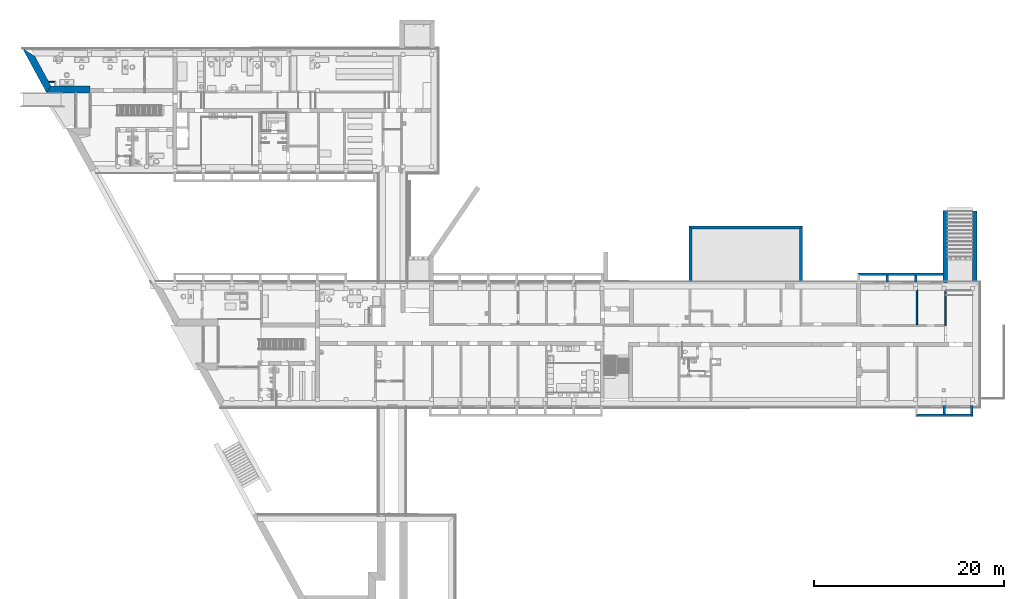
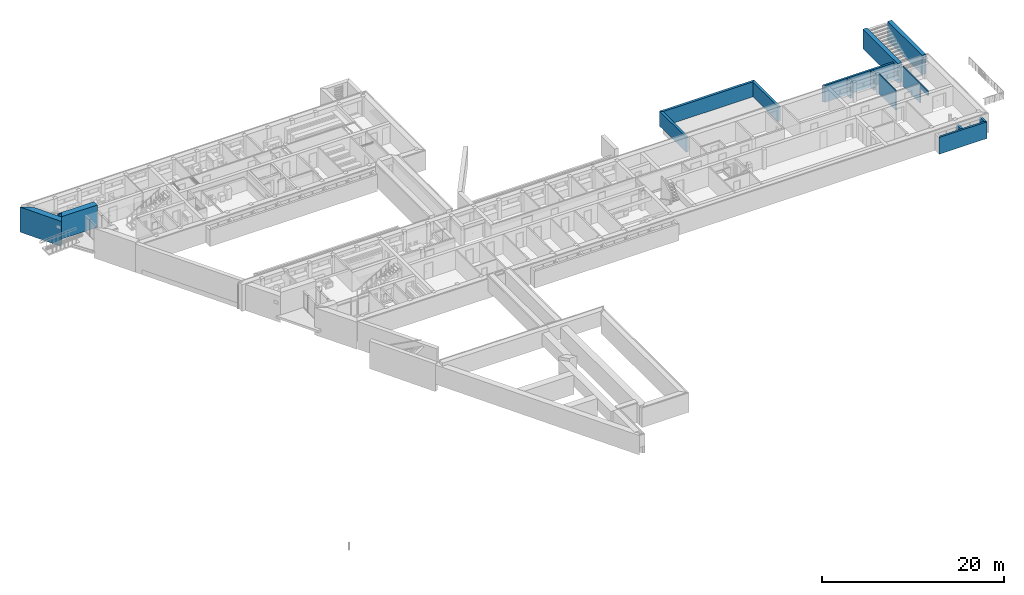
# One storey, part 21 of 127: 16 walls, 1 opening.
"""IFC2X3 building model written with IfcOpenShell, lengths in millimetres."""

import ifcopenshell
import ifcopenshell.guid

model = None  # the IFC model being written
_history = None  # IfcOwnerHistory: only IFC2X3 demands one
_inside = {}  # id of a spatial element -> (the spatial element, [elements in it])
_under = {}  # id of a project, library or spatial element -> (it, [spatial elements below it])
_declared = {}  # id of a project -> (the project, [libraries it declares])
_typed = {}  # id of a type object -> (the type object, [elements of that type])
_made_of = {}  # id of a material, layer set ... -> (it, [elements and type objects made of it])


def new_model(schema):
    """Start an empty IFC model of exactly this schema.

    Asked for "IFC4X3", IfcOpenShell would pick the latest addendum, in which some entities
    have other attributes; the version numbers below select the first issue.
    IFC2X3 requires an IfcOwnerHistory on every rooted entity: one is made here for all.
    """
    global model, _history
    if schema == "IFC4X3":
        model = ifcopenshell.file(schema_version=(4, 3, 0, 0))
    else:
        model = ifcopenshell.file(schema=schema)
    _inside.clear()
    _under.clear()
    _declared.clear()
    _typed.clear()
    _made_of.clear()
    _history = None
    if model.schema == "IFC2X3":
        org = make("IfcOrganization", Name="unknown")
        user = make(
            "IfcPersonAndOrganization",
            ThePerson=make("IfcPerson", FamilyName="unknown"),
            TheOrganization=org,
        )
        app = make(
            "IfcApplication",
            ApplicationDeveloper=org,
            Version="unknown",
            ApplicationFullName="unknown",
            ApplicationIdentifier="unknown",
        )
        _history = make(
            "IfcOwnerHistory",
            OwningUser=user,
            OwningApplication=app,
            ChangeAction="ADDED",
            CreationDate=0,
        )
    return model


def make(cls, **values):
    """One entity of the class cls with the attributes given. An attribute that is None is left unset."""
    return model.create_entity(
        cls, **{name: value for name, value in values.items() if value is not None}
    )


def entity(cls, *values):
    """Any entity or typed value of the class cls, its attributes in the order of the schema. None: left unset."""
    e = model.create_entity(cls)
    for i, value in enumerate(values):
        if value is not None:
            e[i] = value
    return e


def rooted(cls, **values):
    """An entity with a GlobalId (a new one), such as an element, a storey or a relation."""
    return make(cls, GlobalId=ifcopenshell.guid.new(), OwnerHistory=_history, **values)


def si_unit(unit_type, name, prefix=None):
    """IfcSIUnit, for example si_unit("LENGTHUNIT", "METRE", prefix="MILLI")."""
    return make("IfcSIUnit", UnitType=unit_type, Prefix=prefix, Name=name)


def converted_unit(unit_type, name, factor, base, dimensions=None, offset=None):
    """IfcConversionBasedUnit, such as the inch: factor (a typed value) times the base unit."""
    return make(
        "IfcConversionBasedUnit"
        if offset is None
        else "IfcConversionBasedUnitWithOffset",
        ConversionOffset=offset,
        Dimensions=None
        if dimensions is None
        else entity("IfcDimensionalExponents", *dimensions),
        UnitType=unit_type,
        Name=name,
        ConversionFactor=make(
            "IfcMeasureWithUnit", ValueComponent=factor, UnitComponent=base
        ),
    )


def derived_unit(unit_type, elements):
    """IfcDerivedUnit: a product of units, each with its exponent."""
    return make(
        "IfcDerivedUnit",
        Elements=[
            make("IfcDerivedUnitElement", Unit=unit, Exponent=power)
            for unit, power in elements
        ],
        UnitType=unit_type,
    )


def money_unit(currency):
    """IfcMonetaryUnit."""
    return make("IfcMonetaryUnit", Currency=currency)


def assignment(units):
    """IfcUnitAssignment: the units of a project."""
    return None if units is None else make("IfcUnitAssignment", Units=units)


def point(xyz):
    """IfcCartesianPoint."""
    return None if xyz is None else make("IfcCartesianPoint", Coordinates=xyz)


def direction(xyz):
    """IfcDirection."""
    return None if xyz is None else make("IfcDirection", DirectionRatios=xyz)


def frame(location, z_axis=None, x_axis=None):
    """IfcAxis2Placement3D, a coordinate frame: its origin and axes. An axis left out is left unset."""
    return make(
        "IfcAxis2Placement3D",
        Location=point(location),
        Axis=direction(z_axis),
        RefDirection=direction(x_axis),
    )


def frame_2d(location, x_axis=None):
    """IfcAxis2Placement2D, a coordinate frame in the plane: its origin and x axis."""
    return make(
        "IfcAxis2Placement2D", Location=point(location), RefDirection=direction(x_axis)
    )


def origin_with_axes():
    """The frame at (0, 0, 0) with the z axis (0, 0, 1) and the x axis (1, 0, 0) written out."""
    return frame((0.0, 0.0, 0.0), z_axis=(0.0, 0.0, 1.0), x_axis=(1.0, 0.0, 0.0))


def origin_2d_with_axis():
    """The frame at (0, 0) in the plane with the x axis (1, 0) written out."""
    return frame_2d((0.0, 0.0), x_axis=(1.0, 0.0))


def place(relative_to, where):
    """IfcLocalPlacement: puts the frame where relative to a parent placement (None: the world)."""
    return make(
        "IfcLocalPlacement", PlacementRelTo=relative_to, RelativePlacement=where
    )


def context(
    kind, dimensions, precision=None, world=None, true_north=None, identifier=None
):
    """IfcGeometricRepresentationContext, for example the 3D "Model" context."""
    return make(
        "IfcGeometricRepresentationContext",
        ContextIdentifier=identifier,
        ContextType=kind,
        CoordinateSpaceDimension=dimensions,
        Precision=precision,
        WorldCoordinateSystem=world,
        TrueNorth=true_north,
    )


def subcontext(parent, identifier, kind, view, scale=None):
    """IfcGeometricRepresentationSubContext, for example "Body" below "Model"."""
    return make(
        "IfcGeometricRepresentationSubContext",
        ContextIdentifier=identifier,
        ContextType=kind,
        ParentContext=parent,
        TargetScale=scale,
        TargetView=view,
    )


def project(units=None, contexts=None):
    """IfcProject with its units and contexts."""
    return rooted(
        "IfcProject",
        Name="project",
        RepresentationContexts=contexts,
        UnitsInContext=assignment(units),
    )


def spatial(cls, under=None, at=None, **own):
    """A site, building, storey or space (cls), placed at a placement, below another one or the project."""
    s = rooted(cls, ObjectPlacement=at, **own)
    if under is not None:
        _under.setdefault(under.id(), (under, []))[1].append(s)
    return s


def polyline(points):
    """IfcPolyline through the points."""
    return make("IfcPolyline", Points=[point(p) for p in points])


def profile(cls, at=None, kind="AREA", **sizes):
    """A parametric profile (cls). Its sizes go by their IFC names, for example OverallWidth=200.0."""
    return make(cls, ProfileType=kind, Position=at, **sizes)


def rectangle(**sizes):
    """IfcRectangleProfileDef."""
    return profile("IfcRectangleProfileDef", **sizes)


def outline(outer, holes=None, kind="AREA"):
    """IfcArbitraryClosedProfileDef: a profile drawn as a closed curve; with holes, ...WithVoids."""
    if holes is None:
        return make("IfcArbitraryClosedProfileDef", ProfileType=kind, OuterCurve=outer)
    return make(
        "IfcArbitraryProfileDefWithVoids",
        ProfileType=kind,
        OuterCurve=outer,
        InnerCurves=holes,
    )


def extrude(swept, where, along, depth):
    """IfcExtrudedAreaSolid: the profile swept, set in the frame where, extruded along a direction by depth."""
    return make(
        "IfcExtrudedAreaSolid",
        SweptArea=swept,
        Position=where,
        ExtrudedDirection=direction(along),
        Depth=depth,
    )


def shape(context_of_items, identifier, shape_type, items):
    """IfcShapeRepresentation: the items that make up one representation, for example the "Body"."""
    return make(
        "IfcShapeRepresentation",
        ContextOfItems=context_of_items,
        RepresentationIdentifier=identifier,
        RepresentationType=shape_type,
        Items=items,
    )


def material(Name=None, Category=None):
    """IfcMaterial."""
    return make("IfcMaterial", Name=Name, Category=Category)


def layer(
    of_material, thickness, ventilated=None, Name=None, Category=None, Priority=None
):
    """IfcMaterialLayer: one layer of a wall or slab, of a material (None: an air gap)."""
    return make(
        "IfcMaterialLayer",
        Material=of_material,
        LayerThickness=thickness,
        IsVentilated=ventilated,
        Name=Name,
        Category=Category,
        Priority=Priority,
    )


def layer_set(layers, Name=None):
    """IfcMaterialLayerSet."""
    return make("IfcMaterialLayerSet", MaterialLayers=layers, LayerSetName=Name)


def layer_usage(for_layer_set, set_direction, sense, offset, extent=None):
    """IfcMaterialLayerSetUsage: how a layer set lies in its element."""
    return make(
        "IfcMaterialLayerSetUsage",
        ForLayerSet=for_layer_set,
        LayerSetDirection=set_direction,
        DirectionSense=sense,
        OffsetFromReferenceLine=offset,
        ReferenceExtent=extent,
    )


def made_of(thing, what):
    """Note that an element or type object is made of a material, layer set ...; save() writes the relation."""
    if what is not None:
        _made_of.setdefault(what.id(), (what, []))[1].append(thing)
    return thing


def type_object(cls, material=None, **own):
    """A type object (cls), such as IfcWallType, which elements share."""
    return made_of(rooted(cls, **own), material)


def element(
    cls,
    number,
    at=None,
    inside=None,
    cuts=None,
    type_object=None,
    material=None,
    context=None,
    identifier="Body",
    shape_type=None,
    held_by="IfcProductDefinitionShape",
    body=None,
    shapes=None,
    **own,
):
    """One element of the class cls, such as IfcWall. Its Tag is "e" and its number.

    at: its placement. inside: the storey or other place that contains it. cuts: it is an
    opening in that element (IfcRelVoidsElement). A single representation is given by context,
    identifier, shape_type and body (its items); several are given by shapes. held_by: the class
    of the entity that holds the representations. save() writes the other relations.
    """
    e = rooted(cls, Tag="e%d" % number, ObjectPlacement=at, **own)
    if body is not None:
        shapes = [shape(context, identifier, shape_type, body)]
    if shapes is not None:
        e.Representation = make(held_by, Representations=shapes)
    if inside is not None:
        _inside.setdefault(inside.id(), (inside, []))[1].append(e)
    if cuts is not None:
        rooted(
            "IfcRelVoidsElement", RelatingBuildingElement=cuts, RelatedOpeningElement=e
        )
    if type_object is not None:
        _typed.setdefault(type_object.id(), (type_object, []))[1].append(e)
    return made_of(e, material)


def aggregate(whole, parts):
    """IfcRelAggregates: a whole, such as a stair, and the parts it consists of."""
    return rooted("IfcRelAggregates", RelatingObject=whole, RelatedObjects=parts)


def save(model, path):
    """Write the relations noted so far, then the file.

    IfcRelAggregates (storeys below a building ...), IfcRelContainedInSpatialStructure (elements
    in a storey), IfcRelDefinesByType, IfcRelAssociatesMaterial and IfcRelDeclares: one each for
    every whole, place, type object, material and project.
    """
    for whole, parts in _under.values():
        aggregate(whole, parts)
    for where, things in _inside.values():
        rooted(
            "IfcRelContainedInSpatialStructure",
            RelatedElements=things,
            RelatingStructure=where,
        )
    for kind, things in _typed.values():
        rooted("IfcRelDefinesByType", RelatedObjects=things, RelatingType=kind)
    for what, things in _made_of.values():
        rooted("IfcRelAssociatesMaterial", RelatedObjects=things, RelatingMaterial=what)
    for by, libraries in _declared.values():
        rooted("IfcRelDeclares", RelatingContext=by, RelatedDefinitions=libraries)
    model.write(path)


model = new_model("IFC2X3")

# Units and contexts
model_context = context("Model", 3, precision=1e-05, world=origin_with_axes(), true_north=direction((0.0, 1.0)))
body_context = subcontext(model_context, "Body", "Model", "MODEL_VIEW")
ifc_project = project(units=[si_unit("LENGTHUNIT", "METRE", prefix="MILLI"), si_unit("AREAUNIT", "SQUARE_METRE"), si_unit("VOLUMEUNIT", "CUBIC_METRE"), converted_unit("PLANEANGLEUNIT", "DEGREE", entity("IfcPlaneAngleMeasure", 0.0174532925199), si_unit("PLANEANGLEUNIT", "RADIAN"), dimensions=[0, 0, 0, 0, 0, 0, 0]), si_unit("SOLIDANGLEUNIT", "STERADIAN"), money_unit("EUR"), converted_unit("TIMEUNIT", "Year", entity("IfcTimeMeasure", 31556926.0), si_unit("TIMEUNIT", "SECOND"), dimensions=[0, 0, 1, 0, 0, 0, 0]), si_unit("MASSUNIT", "GRAM", prefix="KILO"), si_unit("THERMODYNAMICTEMPERATUREUNIT", "DEGREE_CELSIUS"), si_unit("LUMINOUSINTENSITYUNIT", "LUMEN"), si_unit("ENERGYUNIT", "JOULE", prefix="MEGA"), derived_unit("THERMALCONDUCTANCEUNIT", [(si_unit("POWERUNIT", "WATT"), 1), (si_unit("LENGTHUNIT", "METRE"), -1), (si_unit("THERMODYNAMICTEMPERATUREUNIT", "KELVIN"), -1)]), derived_unit("SPECIFICHEATCAPACITYUNIT", [(si_unit("ENERGYUNIT", "JOULE"), 1), (si_unit("MASSUNIT", "GRAM", prefix="KILO"), -1), (si_unit("THERMODYNAMICTEMPERATUREUNIT", "KELVIN"), -1)]), derived_unit("MASSDENSITYUNIT", [(si_unit("MASSUNIT", "GRAM", prefix="KILO"), 1), (si_unit("VOLUMEUNIT", "CUBIC_METRE"), -1)])], contexts=[model_context])

# Site, building, storey
site_placement = place(None, origin_with_axes())
site = spatial("IfcSite", under=ifc_project, at=site_placement, Name="Site", CompositionType="ELEMENT")
building_placement = place(site_placement, origin_with_axes())
building = spatial("IfcBuilding", under=site, at=building_placement, Name="Building", CompositionType="ELEMENT")
storey_placement = place(building_placement, origin_with_axes())
storey = spatial("IfcBuildingStorey", under=building, at=storey_placement, Name="1 KORRUS", CompositionType="ELEMENT", Elevation=0.0)

# Walls
ifc_material_1 = material(Name="Kivi - Ol.Olev Konstruktsioon")
ifc_layer_1 = layer(ifc_material_1, 250.0, ventilated="UNKNOWN")
ifc_layer_set_1 = layer_set([ifc_layer_1], Name="Ol.olve tugimüür 250")
ifc_layer_usage_1 = layer_usage(ifc_layer_set_1, "AXIS2", "POSITIVE", -125.0)
wall_type_1 = type_object("IfcWallType", Name="SW - 028", PredefinedType="NOTDEFINED")
wall_1_placement = place(storey_placement, frame((90949.6817016, 47302.325893, 0.0), z_axis=(0.0, 0.0, 1.0), x_axis=(0.000248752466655, 0.999999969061, 0.0)))
element("IfcWallStandardCase", 1, at=wall_1_placement, inside=storey, type_object=wall_type_1, material=ifc_layer_usage_1, Name="Ol.olve tugimüür 250", context=body_context, shape_type="SweptSolid", body=[
    extrude(outline(polyline([(0.0, -125.0), (762.157812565, -125.0), (762.157812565, 125.0), (0.0, 125.0), (0.0, -125.0)])), origin_with_axes(), (0.0, 0.0, 1.0), 2250.0),
])
ifc_layer_usage_2 = layer_usage(ifc_layer_set_1, "AXIS2", "POSITIVE", -250.0)
wall_2_placement = place(storey_placement, frame((87949.9335712, 48315.2299316, 0.0), z_axis=(0.0, 0.0, 1.0), x_axis=(0.999999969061, -0.000248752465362, 0.0)))
element("IfcWallStandardCase", 2, at=wall_2_placement, inside=storey, type_object=wall_type_1, material=ifc_layer_usage_2, Name="Ol.olve tugimüür 250", context=body_context, shape_type="SweptSolid", body=[
    extrude(outline(polyline([(125.0, -250.000000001), (8857.07588014, -250.000000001), (8857.07588014, 0.0), (-125.0, 0.0), (125.0, -250.000000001)])), origin_with_axes(), (0.0, 0.0, 1.0), 2250.0),
])
ifc_layer_usage_3 = layer_usage(ifc_layer_set_1, "AXIS2", "POSITIVE", -125.0)
wall_type_2 = type_object("IfcWallType", Name="SW - 032", PredefinedType="NOTDEFINED")
wall_3_placement = place(storey_placement, frame((96947.1795602, 34356.412032, 0.0), z_axis=(0.0, 0.0, 1.0), x_axis=(6.809351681e-05, -0.999999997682, 0.0)))
element("IfcWallStandardCase", 3, at=wall_3_placement, inside=storey, type_object=wall_type_2, material=ifc_layer_usage_3, Name="Ol.olve tugimüür 250", context=body_context, shape_type="SweptSolid", body=[
    extrude(outline(polyline([(9.09494701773e-10, -125.0), (914.125616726, -125.0), (914.125616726, 125.0), (9.09494701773e-10, 125.0), (9.09494701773e-10, -125.0)])), origin_with_axes(), (0.0, 0.0, 1.0), 2250.0),
])
ifc_layer_2 = layer(ifc_material_1, 740.0, ventilated="UNKNOWN")
ifc_layer_set_2 = layer_set([ifc_layer_2], Name="VS1")
ifc_layer_usage_4 = layer_usage(ifc_layer_set_2, "AXIS2", "POSITIVE", -740.0)
wall_type_3 = type_object("IfcWallType", Name="VS-1", PredefinedType="NOTDEFINED")
wall_4_placement = place(storey_placement, frame((6983.16715198, 67276.7530065, 0.0), z_axis=(0.0, 0.0, 1.0), x_axis=(-1.0, 0.0, 0.0)))
element("IfcWallStandardCase", 4, at=wall_4_placement, inside=storey, type_object=wall_type_3, material=ifc_layer_usage_4, Name="VS1", context=body_context, shape_type="SweptSolid", body=[
    extrude(outline(polyline([(0.0, -740.0), (4099.71369233, -740.0), (4540.00000001, 0.0), (0.0, 0.0), (0.0, -740.0)])), origin_with_axes(), (0.0, 0.0, 1.0), 3000.0),
])
ifc_layer_usage_5 = layer_usage(ifc_layer_set_2, "AXIS2", "POSITIVE", 0.0)
wall_5_placement = place(storey_placement, frame((-0.195999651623, 71777.5659328, -1000.0), z_axis=(0.0, 0.0, 1.0), x_axis=(0.477101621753, -0.878848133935, 0.0)))
element("IfcWallStandardCase", 5, at=wall_5_placement, inside=storey, type_object=wall_type_3, material=ifc_layer_usage_5, Name="VS1", context=body_context, shape_type="SweptSolid", body=[
    extrude(outline(polyline([(-216.046659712, 0.0), (5121.26356361, 0.0), (4680.97725593, 740.0), (1116.90174883, 740.0), (-216.046659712, 0.0)])), origin_with_axes(), (0.0, 0.0, 1.0), 3363.55570923),
])
ifc_material_2 = material(Name="Kivi -Ol.Olev Konstruktsioon")
ifc_layer_3 = layer(ifc_material_2, 150.0, ventilated="UNKNOWN")
ifc_layer_set_3 = layer_set([ifc_layer_3], Name="ol.olev ss 150")
ifc_layer_usage_6 = layer_usage(ifc_layer_set_3, "AXIS2", "POSITIVE", -150.0)
wall_type_4 = type_object("IfcWallType", Name="SW - 037", PredefinedType="NOTDEFINED")
wall_6_placement = place(storey_placement, frame((94148.9887343, 47233.2078736, 0.0), z_axis=(0.0, 0.0, 1.0), x_axis=(0.00109091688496, -0.99999940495, 0.0)))
element("IfcWallStandardCase", 6, at=wall_6_placement, inside=storey, type_object=wall_type_4, material=ifc_layer_usage_6, Name="ol.olev ss 150", context=body_context, shape_type="SweptSolid", body=[
    extrude(outline(polyline([(629.79961478, -150.0), (4361.82038754, -150.0), (4361.98402517, 1.13686837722e-10), (630.000565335, 1.13686837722e-10), (629.79961478, -150.0)])), origin_with_axes(), (0.0, 0.0, 1.0), 2600.0),
])
ifc_layer_usage_7 = layer_usage(ifc_layer_set_1, "AXIS2", "POSITIVE", -125.0)
wall_type_5 = type_object("IfcWallType", Name="SW - 029", PredefinedType="NOTDEFINED")
wall_7_placement = place(storey_placement, frame((93949.896039, 47302.325893, 0.0), z_axis=(0.0, 0.0, 1.0), x_axis=(0.00024875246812, 0.999999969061, 0.0)))
element("IfcWallStandardCase", 7, at=wall_7_placement, inside=storey, type_object=wall_type_5, material=ifc_layer_usage_7, Name="Ol.olve tugimüür 250", context=body_context, shape_type="SweptSolid", body=[
    extrude(outline(polyline([(0.0, -125.0), (761.411501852, -125.0), (761.411501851, 125.0), (0.0, 125.0), (0.0, -125.0)])), origin_with_axes(), (0.0, 0.0, 1.0), 2250.0),
])
ifc_layer_usage_8 = layer_usage(ifc_layer_set_1, "AXIS2", "NEGATIVE", 250.0)
wall_type_6 = type_object("IfcWallType", Name="SW - 030", PredefinedType="NOTDEFINED")
wall_8_placement = place(storey_placement, frame((94157.4256451, 33192.0964484, 0.0), z_axis=(0.0, 0.0, 1.0), x_axis=(0.999999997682, 6.80935157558e-05, 0.0)))
element("IfcWallStandardCase", 8, at=wall_8_placement, inside=storey, type_object=wall_type_6, material=ifc_layer_usage_8, Name="Ol.olve tugimüür 250", context=body_context, shape_type="SweptSolid", body=[
    extrude(outline(polyline([(-250.0, 9.09494701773e-10), (5830.54167622, 0.0), (5580.54167622, 250.0), (-2.27373675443e-10, 250.0), (-250.0, 9.09494701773e-10)])), origin_with_axes(), (0.0, 0.0, 1.0), 2250.0),
])
ifc_layer_usage_9 = layer_usage(ifc_layer_set_1, "AXIS2", "POSITIVE", -250.0)
wall_type_7 = type_object("IfcWallType", Name="SW - 031", PredefinedType="NOTDEFINED")
wall_9_placement = place(storey_placement, frame((99737.9673084, 33192.4764471, 0.0), z_axis=(0.0, 0.0, 1.0), x_axis=(-6.80935157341e-05, 0.999999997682, 0.0)))
element("IfcWallStandardCase", 9, at=wall_9_placement, inside=storey, type_object=wall_type_7, material=ifc_layer_usage_9, Name="Ol.olve tugimüür 250", context=body_context, shape_type="SweptSolid", body=[
    extrude(outline(polyline([(9.09494701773e-10, -250.0), (1164.1734783, -250.0), (1164.1734783, 0.0), (249.999999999, 0.0), (9.09494701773e-10, -250.0)])), origin_with_axes(), (0.0, 0.0, 1.0), 2250.0),
])
ifc_layer_4 = layer(ifc_material_1, 300.0, ventilated="UNKNOWN")
ifc_layer_set_4 = layer_set([ifc_layer_4], Name="Kivi - Ol.Olev Konstruktsioon  300")
ifc_layer_usage_10 = layer_usage(ifc_layer_set_4, "AXIS2", "POSITIVE", -300.0)
wall_type_8 = type_object("IfcWallType", Name="SW - 004", PredefinedType="NOTDEFINED")
wall_10_placement = place(storey_placement, frame((82030.9579337, 53238.3286194, 0.0), z_axis=(0.0, 0.0, 1.0), x_axis=(0.0, -1.0, 0.0)))
element("IfcWallStandardCase", 10, at=wall_10_placement, inside=storey, type_object=wall_type_8, material=ifc_layer_usage_10, Name="Kivi - Ol.Olev Konstruktsioon", context=body_context, shape_type="SweptSolid", body=[
    extrude(outline(polyline([(300.0, -300.0), (5832.03172466, -300.0), (5832.1063504, 0.0), (0.0, 0.0), (300.0, -300.0)])), origin_with_axes(), (0.0, 0.0, 1.0), 2000.0),
])
ifc_layer_5 = layer(ifc_material_1, 500.0, ventilated="UNKNOWN")
ifc_layer_set_5 = layer_set([ifc_layer_5], Name="Ol.olve tugimüür 500")
ifc_layer_usage_11 = layer_usage(ifc_layer_set_5, "AXIS2", "POSITIVE", -500.0)
wall_type_9 = type_object("IfcWallType", Name="VS4", PredefinedType="NOTDEFINED")
wall_11_placement = place(storey_placement, frame((99908.5591363, 47302.325893, 0.0), z_axis=(0.0, 0.0, 1.0), x_axis=(0.0, 1.0, 0.0)))
element("IfcWallStandardCase", 11, at=wall_11_placement, inside=storey, type_object=wall_type_9, material=ifc_layer_usage_11, Name="Ol.olve tugimüür 500", context=body_context, shape_type="SweptSolid", body=[
    extrude(outline(polyline([(0.0, -500.0), (7530.87894502, -500.0), (7530.87894502, 0.0), (0.0, 0.0), (0.0, -500.0)])), origin_with_axes(), (0.0, 0.0, 1.0), 2600.0),
])
ifc_layer_usage_12 = layer_usage(ifc_layer_set_5, "AXIS2", "NEGATIVE", 500.0)
wall_type_10 = type_object("IfcWallType", Name="VS3", PredefinedType="NOTDEFINED")
wall_12_placement = place(storey_placement, frame((97306.7403962, 47232.4481988, 0.0), z_axis=(0.0, 0.0, 1.0), x_axis=(0.000248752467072, 0.999999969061, 0.0)))
element("IfcWallStandardCase", 12, at=wall_12_placement, inside=storey, type_object=wall_type_10, material=ifc_layer_usage_12, Name="Ol.olve tugimüür 500", context=body_context, shape_type="SweptSolid", body=[
    extrude(outline(polyline([(0.0, 0.0), (7658.21841837, 0.0), (7658.21841837, 500.0), (0.0, 500.0), (0.0, 0.0)])), origin_with_axes(), (0.0, 0.0, 1.0), 2600.0),
])
ifc_layer_usage_13 = layer_usage(ifc_layer_set_4, "AXIS2", "POSITIVE", -300.0)
wall_type_11 = type_object("IfcWallType", Name="SW - 002", PredefinedType="NOTDEFINED")
wall_13_placement = place(storey_placement, frame((70073.5407307, 47239.1967009, 0.0), z_axis=(0.0, 0.0, 1.0), x_axis=(0.000248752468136, 0.999999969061, 0.0)))
element("IfcWallStandardCase", 13, at=wall_13_placement, inside=storey, type_object=wall_type_11, material=ifc_layer_usage_13, Name="Kivi - Ol.Olev Konstruktsioon", context=body_context, shape_type="SweptSolid", body=[
    extrude(outline(polyline([(170.000000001, -300.0), (5699.20672061, -300.0), (5999.13210415, 0.0), (170.000000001, 1.13686837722e-10), (170.000000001, -300.0)])), origin_with_axes(), (0.0, 0.0, 1.0), 2000.0),
])

# Wall, opening
ifc_layer_usage_14 = layer_usage(ifc_layer_set_3, "AXIS2", "NEGATIVE", 0.0)
wall_type_12 = type_object("IfcWallType", Name="SW - 038", PredefinedType="NOTDEFINED")
wall_14_placement = place(storey_placement, frame((97157.3853009, 47232.4595275, 0.0), z_axis=(0.0, 0.0, 1.0), x_axis=(0.0, -1.0, 0.0)))
wall_14 = element("IfcWallStandardCase", 14, at=wall_14_placement, inside=storey, type_object=wall_type_12, material=ifc_layer_usage_14, Name="ol.olev ss 150", context=body_context, shape_type="SweptSolid", body=[
    extrude(outline(polyline([(629.962706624, -150.0), (6229.39459938, -150.0), (6229.39459938, 0.0), (630.000019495, 0.0), (629.962706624, -150.0)])), origin_with_axes(), (0.0, 0.0, 1.0), 2600.0),
])
opening_placement = place(wall_14_placement, frame((5379.04854019, 0.0, 0.0), z_axis=(0.0, 0.0, 1.0), x_axis=(1.0, 0.0, 0.0)))
element("IfcOpeningElement", 15, at=opening_placement, cuts=wall_14, Name="Siseuks * Double Door 22", context=body_context, shape_type="SweptSolid", body=[
    extrude(rectangle(XDim=1750.0, YDim=2000.0, at=origin_2d_with_axis()), frame((0.0, -150.0, 1000.0), z_axis=(0.0, 1.0, 0.0), x_axis=(1.0, 0.0, 0.0)), (0.0, 0.0, 1.0), 450.0),
    extrude(rectangle(XDim=1824.0, YDim=2037.0, at=origin_2d_with_axis()), frame((0.0, -150.0, 1018.5), z_axis=(0.0, 1.0, 0.0), x_axis=(1.0, 0.0, 0.0)), (0.0, 0.0, -1.0), 150.0),
    extrude(rectangle(XDim=1824.0, YDim=2037.0, at=origin_2d_with_axis()), frame((0.0, 0.0, 1018.5), z_axis=(0.0, -1.0, 0.0), x_axis=(1.0, 0.0, 0.0)), (0.0, 0.0, -1.0), 150.0),
])

# Walls
ifc_material_3 = material(Name="Kivi -  Uus Konstruktsioon")
ifc_layer_6 = layer(ifc_material_3, 150.0, ventilated="UNKNOWN")
ifc_layer_set_6 = layer_set([ifc_layer_6], Name="uus ss 150")
ifc_layer_usage_15 = layer_usage(ifc_layer_set_6, "AXIS2", "NEGATIVE", 0.0)
wall_type_13 = type_object("IfcWallType", Name="SS-1", PredefinedType="NOTDEFINED")
wall_15_placement = place(storey_placement, frame((1788.74249526, 68482.240186, 0.0), z_axis=(0.0, 0.0, 1.0), x_axis=(1.0, 0.0, 0.0)))
element("IfcWallStandardCase", 16, at=wall_15_placement, inside=storey, type_object=wall_type_13, material=ifc_layer_usage_15, Name="sahti sein", context=body_context, shape_type="SweptSolid", body=[
    extrude(outline(polyline([(923.44195991, -150.0), (1455.82364192, -150.0), (1605.82364192, 0.0), (842.011232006, 0.0), (923.44195991, -150.0)])), origin_with_axes(), (0.0, 0.0, 1.0), 2600.0),
])
ifc_layer_usage_16 = layer_usage(ifc_layer_set_4, "AXIS2", "POSITIVE", -300.0)
wall_type_14 = type_object("IfcWallType", Name="SW - 003", PredefinedType="NOTDEFINED")
wall_16_placement = place(storey_placement, frame((70075.0330296, 53238.3286194, 0.0), z_axis=(0.0, 0.0, 1.0), x_axis=(1.0, 0.0, 0.0)))
element("IfcWallStandardCase", 17, at=wall_16_placement, inside=storey, type_object=wall_type_14, material=ifc_layer_usage_16, Name="Kivi - Ol.Olev Konstruktsioon", context=body_context, shape_type="SweptSolid", body=[
    extrude(outline(polyline([(299.925383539, -300.0), (11655.9249041, -300.0), (11955.9249041, 0.0), (-1.13686837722e-10, 0.0), (299.925383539, -300.0)])), origin_with_axes(), (0.0, 0.0, 1.0), 2000.0),
])

save(model, "model.ifc")
